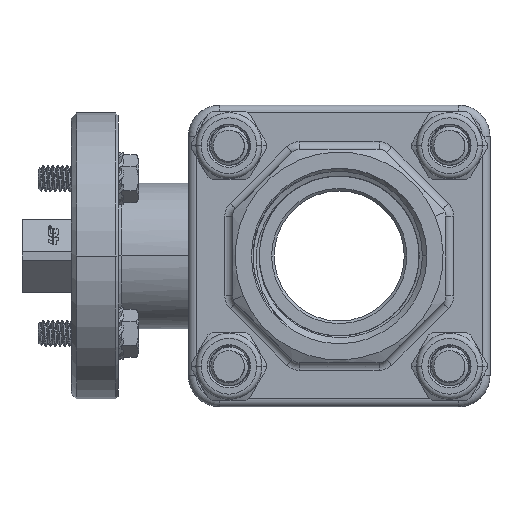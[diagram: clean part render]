
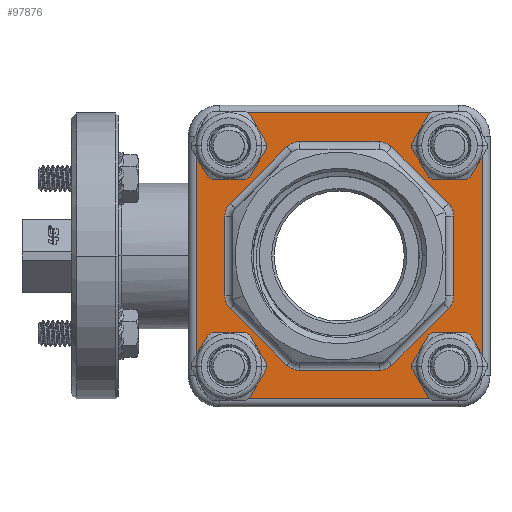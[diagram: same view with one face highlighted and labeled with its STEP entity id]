
A CAD part, left-side view. The second image highlights one B-rep face of the part: STEP entity #97876.
In plain terms, the highlighted planar face has unit normal (-1, 0, 0).
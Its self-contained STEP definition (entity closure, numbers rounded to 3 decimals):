
#4967=DIRECTION('',(0.,0.,1.));
#4968=VECTOR('',#4967,40.639);
#4969=CARTESIAN_POINT('',(-27.5,-27.5,-20.32));
#4970=LINE('',#4969,#4968);
#5072=CARTESIAN_POINT('',(-27.5,21.213,-21.213));
#5073=DIRECTION('',(-1.,0.,0.));
#5074=DIRECTION('',(0.,-1.,0.));
#5075=AXIS2_PLACEMENT_3D('',#5072,#5073,#5074);
#5080=CARTESIAN_POINT('',(-27.5,21.213,21.213));
#5081=DIRECTION('',(-1.,0.,0.));
#5082=DIRECTION('',(0.,0.99,-0.141));
#5083=AXIS2_PLACEMENT_3D('',#5080,#5081,#5082);
#5088=CARTESIAN_POINT('',(-27.5,21.213,21.213));
#5089=DIRECTION('',(-1.,0.,0.));
#5090=DIRECTION('',(0.,-1.,0.));
#5091=AXIS2_PLACEMENT_3D('',#5088,#5089,#5090);
#5096=CARTESIAN_POINT('',(-27.5,-21.213,21.213));
#5097=DIRECTION('',(-1.,0.,0.));
#5098=DIRECTION('',(0.,0.141,0.99));
#5099=AXIS2_PLACEMENT_3D('',#5096,#5097,#5098);
#5104=CARTESIAN_POINT('',(-27.5,-21.213,21.213));
#5105=DIRECTION('',(-1.,0.,0.));
#5106=DIRECTION('',(0.,1.,0.));
#5107=AXIS2_PLACEMENT_3D('',#5104,#5105,#5106);
#5112=CARTESIAN_POINT('',(-27.5,-21.213,-21.213));
#5113=DIRECTION('',(-1.,0.,0.));
#5114=DIRECTION('',(0.,-0.99,0.141));
#5115=AXIS2_PLACEMENT_3D('',#5112,#5113,#5114);
#5120=CARTESIAN_POINT('',(-27.5,-21.213,-21.213));
#5121=DIRECTION('',(-1.,0.,0.));
#5122=DIRECTION('',(0.,1.,0.));
#5123=AXIS2_PLACEMENT_3D('',#5120,#5121,#5122);
#5128=CARTESIAN_POINT('',(-27.5,21.213,-21.213));
#5129=DIRECTION('',(-1.,0.,0.));
#5130=DIRECTION('',(0.,-0.141,-0.99));
#5131=AXIS2_PLACEMENT_3D('',#5128,#5129,#5130);
#5229=DIRECTION('',(0.,-1.,0.));
#5230=VECTOR('',#5229,40.639);
#5231=CARTESIAN_POINT('',(-27.5,20.32,-27.5));
#5232=LINE('',#5231,#5230);
#5379=DIRECTION('',(0.,0.,-1.));
#5380=VECTOR('',#5379,40.639);
#5381=CARTESIAN_POINT('',(-27.5,27.5,20.32));
#5382=LINE('',#5381,#5380);
#24058=DIRECTION('',(0.,0.,1.));
#24059=VECTOR('',#24058,15.326);
#24060=CARTESIAN_POINT('',(-27.5,-22.,-7.663));
#24061=LINE('',#24060,#24059);
#24088=CARTESIAN_POINT('',(-27.5,-18.5,-7.663));
#24089=DIRECTION('',(1.,0.,0.));
#24090=DIRECTION('',(0.,-1.,0.));
#24091=AXIS2_PLACEMENT_3D('',#24088,#24089,#24090);
#24104=DIRECTION('',(0.,-0.707,0.707));
#24105=VECTOR('',#24104,15.326);
#24106=CARTESIAN_POINT('',(-27.5,-10.138,-20.975));
#24107=LINE('',#24106,#24105);
#24134=CARTESIAN_POINT('',(-27.5,-7.663,-18.5));
#24135=DIRECTION('',(1.,0.,0.));
#24136=DIRECTION('',(0.,-0.707,-0.707));
#24137=AXIS2_PLACEMENT_3D('',#24134,#24135,#24136);
#24150=DIRECTION('',(0.,-1.,0.));
#24151=VECTOR('',#24150,15.326);
#24152=CARTESIAN_POINT('',(-27.5,7.663,-22.));
#24153=LINE('',#24152,#24151);
#24180=CARTESIAN_POINT('',(-27.5,7.663,-18.5));
#24181=DIRECTION('',(1.,0.,0.));
#24182=DIRECTION('',(0.,0.,-1.));
#24183=AXIS2_PLACEMENT_3D('',#24180,#24181,#24182);
#24196=DIRECTION('',(0.,-0.707,-0.707));
#24197=VECTOR('',#24196,15.326);
#24198=CARTESIAN_POINT('',(-27.5,20.975,-10.138));
#24199=LINE('',#24198,#24197);
#24226=CARTESIAN_POINT('',(-27.5,18.5,-7.663));
#24227=DIRECTION('',(1.,0.,0.));
#24228=DIRECTION('',(0.,0.707,-0.707));
#24229=AXIS2_PLACEMENT_3D('',#24226,#24227,#24228);
#24242=DIRECTION('',(0.,0.,-1.));
#24243=VECTOR('',#24242,15.326);
#24244=CARTESIAN_POINT('',(-27.5,22.,7.663));
#24245=LINE('',#24244,#24243);
#24272=CARTESIAN_POINT('',(-27.5,18.5,7.663));
#24273=DIRECTION('',(1.,0.,0.));
#24274=DIRECTION('',(0.,1.,0.));
#24275=AXIS2_PLACEMENT_3D('',#24272,#24273,#24274);
#24288=DIRECTION('',(0.,0.707,-0.707));
#24289=VECTOR('',#24288,15.326);
#24290=CARTESIAN_POINT('',(-27.5,10.138,20.975));
#24291=LINE('',#24290,#24289);
#24318=CARTESIAN_POINT('',(-27.5,7.663,18.5));
#24319=DIRECTION('',(1.,0.,0.));
#24320=DIRECTION('',(0.,0.707,0.707));
#24321=AXIS2_PLACEMENT_3D('',#24318,#24319,#24320);
#24334=DIRECTION('',(0.,1.,0.));
#24335=VECTOR('',#24334,15.326);
#24336=CARTESIAN_POINT('',(-27.5,-7.663,22.));
#24337=LINE('',#24336,#24335);
#24364=CARTESIAN_POINT('',(-27.5,-7.663,18.5));
#24365=DIRECTION('',(1.,0.,0.));
#24366=DIRECTION('',(0.,0.,1.));
#24367=AXIS2_PLACEMENT_3D('',#24364,#24365,#24366);
#24380=DIRECTION('',(0.,0.707,0.707));
#24381=VECTOR('',#24380,15.326);
#24382=CARTESIAN_POINT('',(-27.5,-20.975,10.138));
#24383=LINE('',#24382,#24381);
#24410=CARTESIAN_POINT('',(-27.5,-18.5,7.663));
#24411=DIRECTION('',(1.,0.,0.));
#24412=DIRECTION('',(0.,-0.707,0.707));
#24413=AXIS2_PLACEMENT_3D('',#24410,#24411,#24412);
#52264=DIRECTION('',(0.,1.,0.));
#52265=VECTOR('',#52264,40.639);
#52266=CARTESIAN_POINT('',(-27.5,-20.32,27.5));
#52267=LINE('',#52266,#52265);
#91340=CARTESIAN_POINT('',(-27.5,22.,7.663));
#91341=CARTESIAN_POINT('',(-27.5,22.,-7.663));
#91342=VERTEX_POINT('',#91340);
#91343=VERTEX_POINT('',#91341);
#91350=CARTESIAN_POINT('',(-27.5,20.975,-10.138));
#91351=VERTEX_POINT('',#91350);
#91352=CARTESIAN_POINT('',(-27.5,10.138,-20.975));
#91353=VERTEX_POINT('',#91352);
#91358=CARTESIAN_POINT('',(-27.5,7.663,-22.));
#91359=VERTEX_POINT('',#91358);
#91360=CARTESIAN_POINT('',(-27.5,-7.663,-22.));
#91361=VERTEX_POINT('',#91360);
#91366=CARTESIAN_POINT('',(-27.5,-10.138,-20.975));
#91367=VERTEX_POINT('',#91366);
#91368=CARTESIAN_POINT('',(-27.5,-20.975,-10.138));
#91369=VERTEX_POINT('',#91368);
#91374=CARTESIAN_POINT('',(-27.5,-22.,-7.663));
#91375=VERTEX_POINT('',#91374);
#91376=CARTESIAN_POINT('',(-27.5,-22.,7.663));
#91377=VERTEX_POINT('',#91376);
#91382=CARTESIAN_POINT('',(-27.5,-20.975,10.138));
#91383=VERTEX_POINT('',#91382);
#91384=CARTESIAN_POINT('',(-27.5,-10.138,20.975));
#91385=VERTEX_POINT('',#91384);
#91390=CARTESIAN_POINT('',(-27.5,-7.663,22.));
#91391=VERTEX_POINT('',#91390);
#91392=CARTESIAN_POINT('',(-27.5,7.663,22.));
#91393=VERTEX_POINT('',#91392);
#91398=CARTESIAN_POINT('',(-27.5,10.138,20.975));
#91399=VERTEX_POINT('',#91398);
#91400=CARTESIAN_POINT('',(-27.5,20.975,10.138));
#91401=VERTEX_POINT('',#91400);
#92435=CARTESIAN_POINT('',(-27.5,-20.32,27.5));
#92436=CARTESIAN_POINT('',(-27.5,-14.863,21.213));
#92437=VERTEX_POINT('',#92435);
#92438=VERTEX_POINT('',#92436);
#92439=CARTESIAN_POINT('',(-27.5,-27.5,20.32));
#92440=VERTEX_POINT('',#92439);
#92562=CARTESIAN_POINT('',(-27.5,-27.5,-20.32));
#92563=CARTESIAN_POINT('',(-27.5,-14.863,-21.213));
#92564=VERTEX_POINT('',#92562);
#92565=VERTEX_POINT('',#92563);
#92566=CARTESIAN_POINT('',(-27.5,-20.32,-27.5));
#92567=VERTEX_POINT('',#92566);
#92693=CARTESIAN_POINT('',(-27.5,14.863,21.213));
#92694=CARTESIAN_POINT('',(-27.5,20.32,27.5));
#92695=VERTEX_POINT('',#92693);
#92696=VERTEX_POINT('',#92694);
#92701=CARTESIAN_POINT('',(-27.5,27.5,20.32));
#92702=VERTEX_POINT('',#92701);
#92824=CARTESIAN_POINT('',(-27.5,14.863,-21.213));
#92825=CARTESIAN_POINT('',(-27.5,27.5,-20.32));
#92826=VERTEX_POINT('',#92824);
#92827=VERTEX_POINT('',#92825);
#92832=CARTESIAN_POINT('',(-27.5,20.32,-27.5));
#92833=VERTEX_POINT('',#92832);
#97813=CARTESIAN_POINT('',(-27.5,0.,0.));
#97814=DIRECTION('',(-1.,0.,0.));
#97815=DIRECTION('',(0.,1.,0.));
#97816=AXIS2_PLACEMENT_3D('',#97813,#97814,#97815);
#97817=PLANE('',#97816);
#97819=ORIENTED_EDGE('',*,*,#97818,.T.);
#97821=ORIENTED_EDGE('',*,*,#97820,.F.);
#97823=ORIENTED_EDGE('',*,*,#97822,.T.);
#97825=ORIENTED_EDGE('',*,*,#97824,.T.);
#97827=ORIENTED_EDGE('',*,*,#97826,.F.);
#97829=ORIENTED_EDGE('',*,*,#97828,.T.);
#97831=ORIENTED_EDGE('',*,*,#97830,.T.);
#97832=ORIENTED_EDGE('',*,*,#97751,.F.);
#97834=ORIENTED_EDGE('',*,*,#97833,.T.);
#97835=ORIENTED_EDGE('',*,*,#97785,.T.);
#97837=ORIENTED_EDGE('',*,*,#97836,.F.);
#97839=ORIENTED_EDGE('',*,*,#97838,.T.);
#97840=EDGE_LOOP('',(#97819,#97821,#97823,#97825,#97827,#97829,#97831,#97832,
#97834,#97835,#97837,#97839));
#97841=FACE_OUTER_BOUND('',#97840,.F.);
#97843=ORIENTED_EDGE('',*,*,#97842,.T.);
#97845=ORIENTED_EDGE('',*,*,#97844,.F.);
#97847=ORIENTED_EDGE('',*,*,#97846,.T.);
#97849=ORIENTED_EDGE('',*,*,#97848,.F.);
#97851=ORIENTED_EDGE('',*,*,#97850,.T.);
#97853=ORIENTED_EDGE('',*,*,#97852,.F.);
#97855=ORIENTED_EDGE('',*,*,#97854,.T.);
#97857=ORIENTED_EDGE('',*,*,#97856,.F.);
#97859=ORIENTED_EDGE('',*,*,#97858,.T.);
#97861=ORIENTED_EDGE('',*,*,#97860,.F.);
#97863=ORIENTED_EDGE('',*,*,#97862,.T.);
#97865=ORIENTED_EDGE('',*,*,#97864,.F.);
#97867=ORIENTED_EDGE('',*,*,#97866,.T.);
#97869=ORIENTED_EDGE('',*,*,#97868,.F.);
#97871=ORIENTED_EDGE('',*,*,#97870,.T.);
#97873=ORIENTED_EDGE('',*,*,#97872,.F.);
#97874=EDGE_LOOP('',(#97843,#97845,#97847,#97849,#97851,#97853,#97855,#97857,
#97859,#97861,#97863,#97865,#97867,#97869,#97871,#97873));
#97875=FACE_BOUND('',#97874,.F.);
#97876=ADVANCED_FACE('',(#97841,#97875),#97817,.T.);
#5076=CIRCLE('',#5075,6.35);
#5084=CIRCLE('',#5083,6.35);
#5092=CIRCLE('',#5091,6.35);
#5100=CIRCLE('',#5099,6.35);
#5108=CIRCLE('',#5107,6.35);
#5116=CIRCLE('',#5115,6.35);
#5124=CIRCLE('',#5123,6.35);
#5132=CIRCLE('',#5131,6.35);
#24092=CIRCLE('',#24091,3.5);
#24138=CIRCLE('',#24137,3.5);
#24184=CIRCLE('',#24183,3.5);
#24230=CIRCLE('',#24229,3.5);
#24276=CIRCLE('',#24275,3.5);
#24322=CIRCLE('',#24321,3.5);
#24368=CIRCLE('',#24367,3.5);
#24414=CIRCLE('',#24413,3.5);
#97751=EDGE_CURVE('',#92564,#92440,#4970,.T.);
#97785=EDGE_CURVE('',#92565,#92567,#5124,.T.);
#97818=EDGE_CURVE('',#92826,#92827,#5076,.T.);
#97820=EDGE_CURVE('',#92702,#92827,#5382,.T.);
#97822=EDGE_CURVE('',#92702,#92695,#5084,.T.);
#97824=EDGE_CURVE('',#92695,#92696,#5092,.T.);
#97826=EDGE_CURVE('',#92437,#92696,#52267,.T.);
#97828=EDGE_CURVE('',#92437,#92438,#5100,.T.);
#97830=EDGE_CURVE('',#92438,#92440,#5108,.T.);
#97833=EDGE_CURVE('',#92564,#92565,#5116,.T.);
#97836=EDGE_CURVE('',#92833,#92567,#5232,.T.);
#97838=EDGE_CURVE('',#92833,#92826,#5132,.T.);
#97842=EDGE_CURVE('',#91367,#91369,#24107,.T.);
#97844=EDGE_CURVE('',#91375,#91369,#24092,.T.);
#97846=EDGE_CURVE('',#91375,#91377,#24061,.T.);
#97848=EDGE_CURVE('',#91383,#91377,#24414,.T.);
#97850=EDGE_CURVE('',#91383,#91385,#24383,.T.);
#97852=EDGE_CURVE('',#91391,#91385,#24368,.T.);
#97854=EDGE_CURVE('',#91391,#91393,#24337,.T.);
#97856=EDGE_CURVE('',#91399,#91393,#24322,.T.);
#97858=EDGE_CURVE('',#91399,#91401,#24291,.T.);
#97860=EDGE_CURVE('',#91342,#91401,#24276,.T.);
#97862=EDGE_CURVE('',#91342,#91343,#24245,.T.);
#97864=EDGE_CURVE('',#91351,#91343,#24230,.T.);
#97866=EDGE_CURVE('',#91351,#91353,#24199,.T.);
#97868=EDGE_CURVE('',#91359,#91353,#24184,.T.);
#97870=EDGE_CURVE('',#91359,#91361,#24153,.T.);
#97872=EDGE_CURVE('',#91367,#91361,#24138,.T.);
